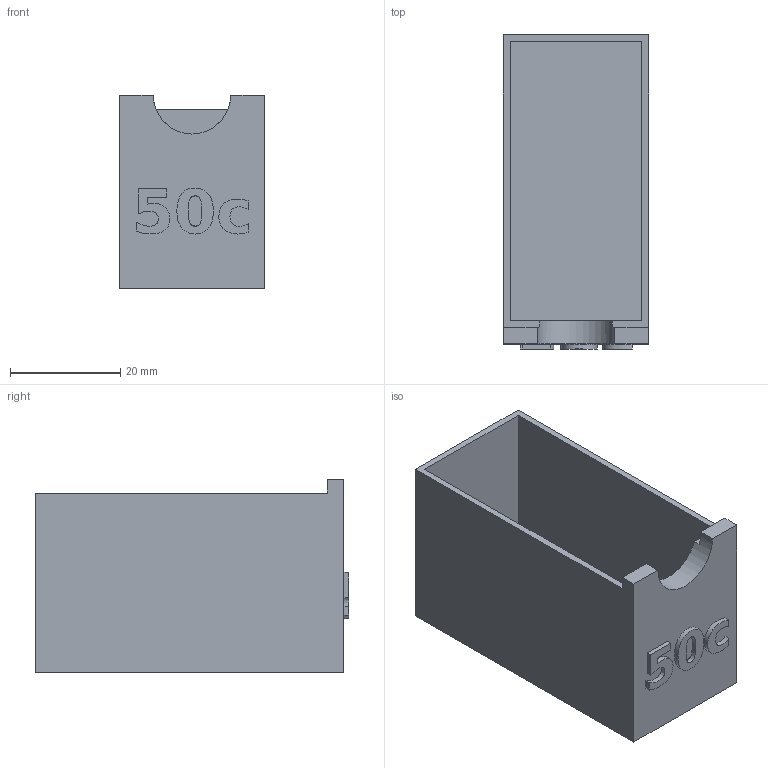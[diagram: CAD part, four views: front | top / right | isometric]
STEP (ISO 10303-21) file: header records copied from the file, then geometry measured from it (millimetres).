
FILE_DESCRIPTION(('Open CASCADE Model'),'2;1');
FILE_NAME('Open CASCADE Shape Model','2026-10-20T15:47:44',('Author'),( 'Open CASCADE'),'Open CASCADE STEP processor 8.0','build123d', 'Unknown');
FILE_SCHEMA(('AUTOMOTIVE_DESIGN { 1 0 10303 214 1 1 1 1 }'));
Length unit declared in the file: millimetre
Products named in the file (2): =>[0:1:1:2]; COMPOUND
Assembly tree (1 placements, depth 2):
  =>[0:1:1:2]
    COMPOUND
Bounding box: 26.29 x 56.84 x 35 mm (x, y, z)
Volume: 9993.8 mm3; surface area: 13059.8 mm2
Topology: 1 solids, 1 shells, 34 faces, 84 edges, 56 vertices
Faces by surface type: plane 27, extrusion 6, cylinder 1
Entity records: 2325 total; most frequent: CARTESIAN_POINT 649, DIRECTION 278, VECTOR 210, LINE 204, ORIENTED_EDGE 168, PCURVE 168, DEFINITIONAL_REPRESENTATION 168, EDGE_CURVE 84
